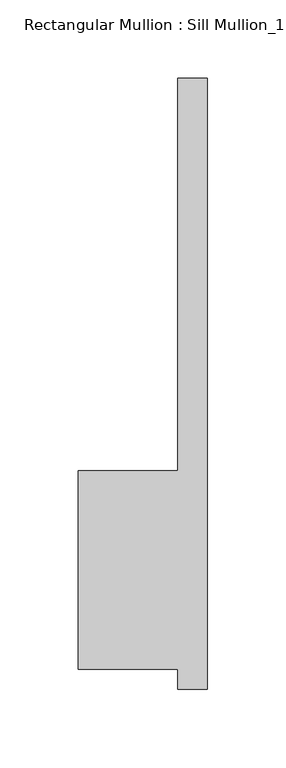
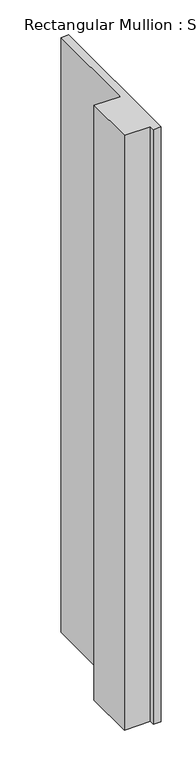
"""IFC4 building model written with IfcOpenShell, lengths in millimetres: member geometry."""

from ifc_helpers import new_model, si_unit, frame, origin, place, context, project, spatial, polyline, outline, extrude, source, transform, mapped, element, save


def member_cac9820d(model_context):
    return source(origin(), model_context, "Body", "SweptSolid", [
        extrude(outline(polyline([(-82.55, 50.8), (-19.05, 50.8), (-19.05, 301.625), (0.0, 301.625), (0.0, -88.9), (-19.05, -88.9), (-19.05, -76.2), (-82.55, -76.2), (-82.55, 50.8)])), frame((0.0, 0.0, -1530.35), z_axis=(0.0, 0.0, 1.0), x_axis=(1.0, 0.0, 0.0)), (0.0, 0.0, 1.0), 1530.35),
    ])


if __name__ == "__main__":
    model = new_model("IFC4")
    model_context = context("Model", 3, world=origin())
    ifc_project = project(units=[si_unit("LENGTHUNIT", "METRE", prefix="MILLI")], contexts=[model_context])
    site = spatial("IfcSite", under=ifc_project)
    building = spatial("IfcBuilding", under=site)
    placement = place(None, origin())
    member_shape = member_cac9820d(model_context)
    element("IfcMember", 1, ObjectType="Rectangular Mullion : Sill Mullion_15\" thick wall", at=placement, inside=building, context=model_context, shape_type="MappedRepresentation", body=[
        mapped(member_shape, transform((0.0, 0.0, 0.0), x_axis=(1.0, 0.0, 0.0), y_axis=(0.0, 1.0, 0.0), z_axis=(0.0, 0.0, 1.0))),
    ])
    save(model, "model.ifc")
